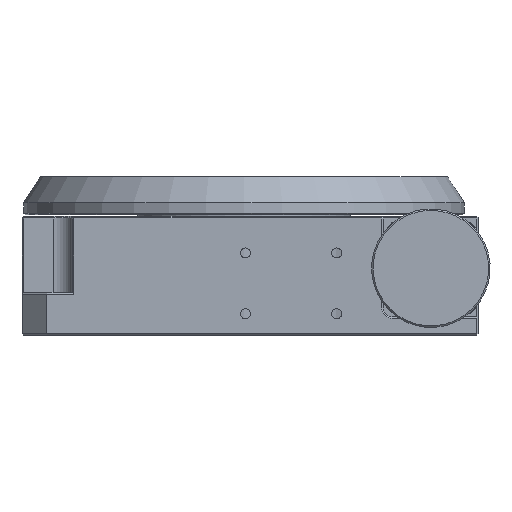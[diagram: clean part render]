
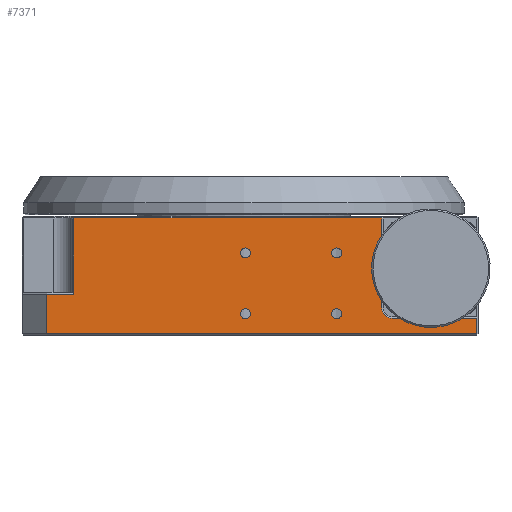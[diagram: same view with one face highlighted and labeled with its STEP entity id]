
A CAD part, front view. The second image highlights one B-rep face of the part: STEP entity #7371.
In plain terms, the highlighted planar face has unit normal (0, -1, 0).
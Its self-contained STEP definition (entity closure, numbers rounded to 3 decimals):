
#238 = EDGE_LOOP ( 'NONE', ( #4841, #1621 ) ) ;
#273 = CARTESIAN_POINT ( 'NONE',  ( 8.394, 9.252, 223.662 ) ) ;
#299 = DIRECTION ( 'NONE',  ( 0., 0., -1. ) ) ;
#454 = LINE ( 'NONE', #6076, #686 ) ;
#556 = VERTEX_POINT ( 'NONE', #5802 ) ;
#686 = VECTOR ( 'NONE', #7648, 1000. ) ;
#712 = VERTEX_POINT ( 'NONE', #5783 ) ;
#724 = EDGE_LOOP ( 'NONE', ( #1679, #6998 ) ) ;
#742 = VERTEX_POINT ( 'NONE', #1246 ) ;
#894 = VERTEX_POINT ( 'NONE', #7604 ) ;
#1246 = CARTESIAN_POINT ( 'NONE',  ( -37.606, 9.252, 231.812 ) ) ;
#1273 = CARTESIAN_POINT ( 'NONE',  ( -133.106, 9.252, 262.162 ) ) ;
#1278 = ORIENTED_EDGE ( 'NONE', *, *, #4004, .T. ) ;
#1293 = AXIS2_PLACEMENT_3D ( 'NONE', #6858, #8438, #3721 ) ;
#1311 = CARTESIAN_POINT ( 'NONE',  ( -37.606, 9.252, 250.162 ) ) ;
#1373 = VERTEX_POINT ( 'NONE', #1917 ) ;
#1411 = CARTESIAN_POINT ( 'NONE',  ( -37.606, 9.252, 230.162 ) ) ;
#1457 = VERTEX_POINT ( 'NONE', #2090 ) ;
#1473 = VECTOR ( 'NONE', #9828, 1000. ) ;
#1536 = AXIS2_PLACEMENT_3D ( 'NONE', #1311, #9194, #10001 ) ;
#1621 = ORIENTED_EDGE ( 'NONE', *, *, #5464, .F. ) ;
#1649 = CARTESIAN_POINT ( 'NONE',  ( 8.894, 9.252, 223.662 ) ) ;
#1652 = DIRECTION ( 'NONE',  ( 0., -1., 0. ) ) ;
#1661 = CARTESIAN_POINT ( 'NONE',  ( -37.606, 9.252, 248.512 ) ) ;
#1664 = LINE ( 'NONE', #1273, #4011 ) ;
#1679 = ORIENTED_EDGE ( 'NONE', *, *, #5126, .F. ) ;
#1686 = CARTESIAN_POINT ( 'NONE',  ( -67.606, 9.252, 230.162 ) ) ;
#1917 = CARTESIAN_POINT ( 'NONE',  ( -22.806, 9.252, 261.662 ) ) ;
#1923 = CARTESIAN_POINT ( 'NONE',  ( -19.306, 9.252, 228.662 ) ) ;
#2090 = CARTESIAN_POINT ( 'NONE',  ( -124.106, 9.252, 261.662 ) ) ;
#2134 = CARTESIAN_POINT ( 'NONE',  ( -133.106, 9.252, 223.662 ) ) ;
#2157 = CIRCLE ( 'NONE', #2812, 1.65 ) ;
#2197 = EDGE_CURVE ( 'NONE', #7289, #712, #7987, .T. ) ;
#2441 = DIRECTION ( 'NONE',  ( 0., -1., 0. ) ) ;
#2445 = CARTESIAN_POINT ( 'NONE',  ( 8.894, 9.252, 262.162 ) ) ;
#2504 = ORIENTED_EDGE ( 'NONE', *, *, #3070, .F. ) ;
#2594 = AXIS2_PLACEMENT_3D ( 'NONE', #7372, #6635, #3487 ) ;
#2655 = AXIS2_PLACEMENT_3D ( 'NONE', #5484, #2441, #6308 ) ;
#2669 = ORIENTED_EDGE ( 'NONE', *, *, #9783, .T. ) ;
#2695 = CIRCLE ( 'NONE', #1293, 1.65 ) ;
#2756 = CARTESIAN_POINT ( 'NONE',  ( -124.606, 9.252, 261.662 ) ) ;
#2792 = VERTEX_POINT ( 'NONE', #1661 ) ;
#2802 = ORIENTED_EDGE ( 'NONE', *, *, #2197, .F. ) ;
#2812 = AXIS2_PLACEMENT_3D ( 'NONE', #1411, #3855, #6140 ) ;
#2855 = DIRECTION ( 'NONE',  ( -1., 0., 0. ) ) ;
#3023 = DIRECTION ( 'NONE',  ( 0., 0., 1. ) ) ;
#3070 = EDGE_CURVE ( 'NONE', #712, #7289, #4425, .T. ) ;
#3131 = CARTESIAN_POINT ( 'NONE',  ( -124.106, 9.252, 262.162 ) ) ;
#3171 = FACE_BOUND ( 'NONE', #724, .T. ) ;
#3206 = AXIS2_PLACEMENT_3D ( 'NONE', #6782, #8464, #2855 ) ;
#3210 = EDGE_CURVE ( 'NONE', #894, #6207, #6141, .T. ) ;
#3282 = LINE ( 'NONE', #10162, #7222 ) ;
#3288 = EDGE_LOOP ( 'NONE', ( #7317, #8656 ) ) ;
#3452 = VECTOR ( 'NONE', #10201, 1000. ) ;
#3487 = DIRECTION ( 'NONE',  ( 0., 0., -1. ) ) ;
#3589 = LINE ( 'NONE', #4454, #1473 ) ;
#3721 = DIRECTION ( 'NONE',  ( 0., 0., -1. ) ) ;
#3753 = VERTEX_POINT ( 'NONE', #1923 ) ;
#3855 = DIRECTION ( 'NONE',  ( 0., -1., 0. ) ) ;
#3871 = CARTESIAN_POINT ( 'NONE',  ( -124.106, 9.252, 236.662 ) ) ;
#3935 = CARTESIAN_POINT ( 'NONE',  ( 8.894, 9.252, 228.662 ) ) ;
#3939 = EDGE_CURVE ( 'NONE', #556, #7656, #1664, .T. ) ;
#4004 = EDGE_CURVE ( 'NONE', #9911, #3753, #8577, .T. ) ;
#4011 = VECTOR ( 'NONE', #6788, 1000. ) ;
#4073 = DIRECTION ( 'NONE',  ( 0., 0., -1. ) ) ;
#4425 = CIRCLE ( 'NONE', #8206, 1.65 ) ;
#4454 = CARTESIAN_POINT ( 'NONE',  ( -22.806, 9.252, 262.162 ) ) ;
#4491 = VERTEX_POINT ( 'NONE', #3871 ) ;
#4547 = VERTEX_POINT ( 'NONE', #9104 ) ;
#4757 = EDGE_LOOP ( 'NONE', ( #2669, #9845, #6977, #7297, #8488, #1278, #7061, #7555, #9626 ) ) ;
#4772 = FACE_BOUND ( 'NONE', #238, .T. ) ;
#4841 = ORIENTED_EDGE ( 'NONE', *, *, #3210, .F. ) ;
#4911 = EDGE_CURVE ( 'NONE', #5817, #742, #2157, .T. ) ;
#5126 = EDGE_CURVE ( 'NONE', #2792, #7342, #5489, .T. ) ;
#5196 = LINE ( 'NONE', #3131, #3452 ) ;
#5429 = EDGE_CURVE ( 'NONE', #742, #5817, #8094, .T. ) ;
#5464 = EDGE_CURVE ( 'NONE', #6207, #894, #5642, .T. ) ;
#5484 = CARTESIAN_POINT ( 'NONE',  ( -67.606, 9.252, 230.162 ) ) ;
#5489 = CIRCLE ( 'NONE', #1536, 1.65 ) ;
#5579 = EDGE_CURVE ( 'NONE', #7342, #2792, #2695, .T. ) ;
#5642 = CIRCLE ( 'NONE', #7284, 1.65 ) ;
#5735 = VECTOR ( 'NONE', #9451, 1000. ) ;
#5783 = CARTESIAN_POINT ( 'NONE',  ( -67.606, 9.252, 228.512 ) ) ;
#5798 = VECTOR ( 'NONE', #5890, 1000. ) ;
#5802 = CARTESIAN_POINT ( 'NONE',  ( -133.106, 9.252, 236.662 ) ) ;
#5817 = VERTEX_POINT ( 'NONE', #8238 ) ;
#5890 = DIRECTION ( 'NONE',  ( -1., 0., 0. ) ) ;
#6030 = EDGE_CURVE ( 'NONE', #7975, #9911, #3282, .T. ) ;
#6076 = CARTESIAN_POINT ( 'NONE',  ( 8.894, 9.252, 236.662 ) ) ;
#6140 = DIRECTION ( 'NONE',  ( 0., 0., -1. ) ) ;
#6141 = CIRCLE ( 'NONE', #2594, 1.65 ) ;
#6207 = VERTEX_POINT ( 'NONE', #9804 ) ;
#6308 = DIRECTION ( 'NONE',  ( 0., 0., -1. ) ) ;
#6561 = EDGE_CURVE ( 'NONE', #3753, #4547, #8277, .T. ) ;
#6564 = DIRECTION ( 'NONE',  ( 0., -1., 0. ) ) ;
#6635 = DIRECTION ( 'NONE',  ( 0., -1., 0. ) ) ;
#6747 = LINE ( 'NONE', #1649, #9567 ) ;
#6782 = CARTESIAN_POINT ( 'NONE',  ( -19.306, 9.252, 232.162 ) ) ;
#6788 = DIRECTION ( 'NONE',  ( 0., 0., -1. ) ) ;
#6858 = CARTESIAN_POINT ( 'NONE',  ( -37.606, 9.252, 250.162 ) ) ;
#6895 = FACE_BOUND ( 'NONE', #9343, .T. ) ;
#6977 = ORIENTED_EDGE ( 'NONE', *, *, #3939, .T. ) ;
#6998 = ORIENTED_EDGE ( 'NONE', *, *, #5579, .F. ) ;
#7061 = ORIENTED_EDGE ( 'NONE', *, *, #6561, .T. ) ;
#7138 = CARTESIAN_POINT ( 'NONE',  ( -37.606, 9.252, 230.162 ) ) ;
#7164 = CARTESIAN_POINT ( 'NONE',  ( -37.606, 9.252, 251.812 ) ) ;
#7222 = VECTOR ( 'NONE', #3023, 1000. ) ;
#7284 = AXIS2_PLACEMENT_3D ( 'NONE', #9516, #1652, #7304 ) ;
#7289 = VERTEX_POINT ( 'NONE', #9299 ) ;
#7297 = ORIENTED_EDGE ( 'NONE', *, *, #8813, .T. ) ;
#7304 = DIRECTION ( 'NONE',  ( 0., 0., -1. ) ) ;
#7317 = ORIENTED_EDGE ( 'NONE', *, *, #4911, .F. ) ;
#7332 = DIRECTION ( 'NONE',  ( 0., 1., 0. ) ) ;
#7342 = VERTEX_POINT ( 'NONE', #7164 ) ;
#7371 = ADVANCED_FACE ( 'NONE', ( #4772, #6895, #9335, #3171, #7949 ), #7909, .F. ) ;
#7372 = CARTESIAN_POINT ( 'NONE',  ( -67.606, 9.252, 250.162 ) ) ;
#7555 = ORIENTED_EDGE ( 'NONE', *, *, #7603, .T. ) ;
#7603 = EDGE_CURVE ( 'NONE', #4547, #1373, #3589, .T. ) ;
#7604 = CARTESIAN_POINT ( 'NONE',  ( -67.606, 9.252, 248.512 ) ) ;
#7648 = DIRECTION ( 'NONE',  ( -1., 0., 0. ) ) ;
#7656 = VERTEX_POINT ( 'NONE', #2134 ) ;
#7909 = PLANE ( 'NONE',  #9276 ) ;
#7935 = CARTESIAN_POINT ( 'NONE',  ( 8.394, 9.252, 228.662 ) ) ;
#7949 = FACE_OUTER_BOUND ( 'NONE', #4757, .T. ) ;
#7975 = VERTEX_POINT ( 'NONE', #273 ) ;
#7981 = DIRECTION ( 'NONE',  ( 1., 0., 0. ) ) ;
#7987 = CIRCLE ( 'NONE', #2655, 1.65 ) ;
#8094 = CIRCLE ( 'NONE', #9265, 1.65 ) ;
#8206 = AXIS2_PLACEMENT_3D ( 'NONE', #1686, #6564, #4073 ) ;
#8238 = CARTESIAN_POINT ( 'NONE',  ( -37.606, 9.252, 228.512 ) ) ;
#8277 = CIRCLE ( 'NONE', #3206, 3.5 ) ;
#8438 = DIRECTION ( 'NONE',  ( 0., -1., 0. ) ) ;
#8464 = DIRECTION ( 'NONE',  ( 0., 1., 0. ) ) ;
#8488 = ORIENTED_EDGE ( 'NONE', *, *, #6030, .T. ) ;
#8506 = LINE ( 'NONE', #2756, #5798 ) ;
#8577 = LINE ( 'NONE', #3935, #5735 ) ;
#8590 = EDGE_CURVE ( 'NONE', #4491, #556, #454, .T. ) ;
#8656 = ORIENTED_EDGE ( 'NONE', *, *, #5429, .F. ) ;
#8813 = EDGE_CURVE ( 'NONE', #7656, #7975, #6747, .T. ) ;
#8920 = DIRECTION ( 'NONE',  ( -1., 0., 0. ) ) ;
#9104 = CARTESIAN_POINT ( 'NONE',  ( -22.806, 9.252, 232.162 ) ) ;
#9194 = DIRECTION ( 'NONE',  ( 0., -1., 0. ) ) ;
#9265 = AXIS2_PLACEMENT_3D ( 'NONE', #7138, #9477, #299 ) ;
#9276 = AXIS2_PLACEMENT_3D ( 'NONE', #2445, #7332, #8920 ) ;
#9299 = CARTESIAN_POINT ( 'NONE',  ( -67.606, 9.252, 231.812 ) ) ;
#9335 = FACE_BOUND ( 'NONE', #3288, .T. ) ;
#9343 = EDGE_LOOP ( 'NONE', ( #2504, #2802 ) ) ;
#9451 = DIRECTION ( 'NONE',  ( -1., 0., 0. ) ) ;
#9477 = DIRECTION ( 'NONE',  ( 0., -1., 0. ) ) ;
#9516 = CARTESIAN_POINT ( 'NONE',  ( -67.606, 9.252, 250.162 ) ) ;
#9567 = VECTOR ( 'NONE', #7981, 1000. ) ;
#9626 = ORIENTED_EDGE ( 'NONE', *, *, #10033, .T. ) ;
#9783 = EDGE_CURVE ( 'NONE', #1457, #4491, #5196, .T. ) ;
#9804 = CARTESIAN_POINT ( 'NONE',  ( -67.606, 9.252, 251.812 ) ) ;
#9828 = DIRECTION ( 'NONE',  ( 0., 0., 1. ) ) ;
#9845 = ORIENTED_EDGE ( 'NONE', *, *, #8590, .T. ) ;
#9911 = VERTEX_POINT ( 'NONE', #7935 ) ;
#10001 = DIRECTION ( 'NONE',  ( 0., 0., -1. ) ) ;
#10033 = EDGE_CURVE ( 'NONE', #1373, #1457, #8506, .T. ) ;
#10162 = CARTESIAN_POINT ( 'NONE',  ( 8.394, 9.252, 262.162 ) ) ;
#10201 = DIRECTION ( 'NONE',  ( 0., 0., -1. ) ) ;
